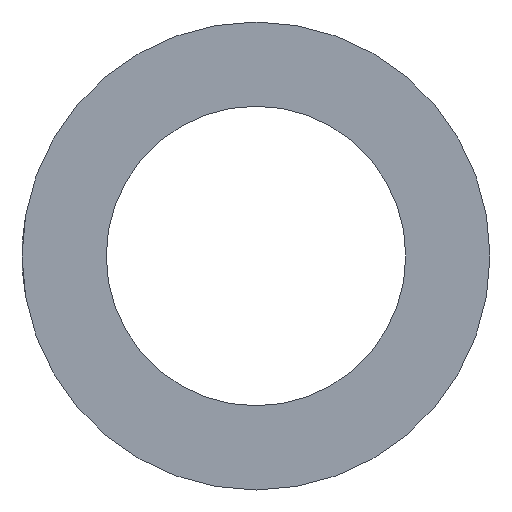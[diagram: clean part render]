
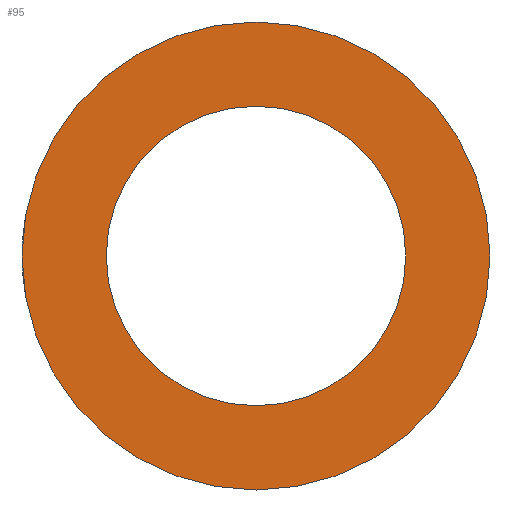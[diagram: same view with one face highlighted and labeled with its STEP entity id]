
A CAD part, left-side view. The second image highlights one B-rep face of the part: STEP entity #95.
In plain terms, the highlighted planar face has unit normal (-1, 0, 0).
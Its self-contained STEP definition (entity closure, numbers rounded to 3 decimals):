
#3 = VERTEX_POINT ( 'NONE', #144 ) ;
#7 = EDGE_CURVE ( 'NONE', #3, #25, #163, .T. ) ;
#14 = EDGE_CURVE ( 'NONE', #560, #28, #235, .T. ) ;
#17 = ORIENTED_EDGE ( 'NONE', *, *, #167, .T. ) ;
#25 = VERTEX_POINT ( 'NONE', #365 ) ;
#28 = VERTEX_POINT ( 'NONE', #395 ) ;
#35 = ORIENTED_EDGE ( 'NONE', *, *, #14, .F. ) ;
#42 = ORIENTED_EDGE ( 'NONE', *, *, #7, .T. ) ;
#73 = EDGE_LOOP ( 'NONE', ( #35, #543 ) ) ;
#92 = EDGE_LOOP ( 'NONE', ( #42, #17 ) ) ;
#95 = ADVANCED_FACE ( 'NONE', ( #194, #195 ), #196, .F. ) ;
#144 = CARTESIAN_POINT ( 'NONE',  ( 0., 0., 62.5 ) ) ;
#163 = CIRCLE ( 'NONE', #164, 62.5 ) ;
#164 = AXIS2_PLACEMENT_3D ( 'NONE', #165, #166, #169 ) ;
#165 = CARTESIAN_POINT ( 'NONE',  ( 0., 0., 0. ) ) ;
#166 = DIRECTION ( 'NONE',  ( -1., 0., 0. ) ) ;
#167 = EDGE_CURVE ( 'NONE', #25, #3, #448, .T. ) ;
#169 = DIRECTION ( 'NONE',  ( 0., 0., 1. ) ) ;
#194 = FACE_BOUND ( 'NONE', #73, .T. ) ;
#195 = FACE_OUTER_BOUND ( 'NONE', #92, .T. ) ;
#196 = PLANE ( 'NONE',  #197 ) ;
#197 = AXIS2_PLACEMENT_3D ( 'NONE', #198, #199, #200 ) ;
#198 = CARTESIAN_POINT ( 'NONE',  ( 0., 0., -62.5 ) ) ;
#199 = DIRECTION ( 'NONE',  ( 1., 0., 0. ) ) ;
#200 = DIRECTION ( 'NONE',  ( 0., 0., -1. ) ) ;
#235 = CIRCLE ( 'NONE', #236, 40. ) ;
#236 = AXIS2_PLACEMENT_3D ( 'NONE', #237, #238, #239 ) ;
#237 = CARTESIAN_POINT ( 'NONE',  ( 0., 0., 0. ) ) ;
#238 = DIRECTION ( 'NONE',  ( -1., 0., 0. ) ) ;
#239 = DIRECTION ( 'NONE',  ( 0., 0., 1. ) ) ;
#286 = CARTESIAN_POINT ( 'NONE',  ( 0., 0., 40. ) ) ;
#365 = CARTESIAN_POINT ( 'NONE',  ( 0., 0., -62.5 ) ) ;
#395 = CARTESIAN_POINT ( 'NONE',  ( 0., 0., -40. ) ) ;
#397 = CIRCLE ( 'NONE', #398, 40. ) ;
#398 = AXIS2_PLACEMENT_3D ( 'NONE', #399, #400, #401 ) ;
#399 = CARTESIAN_POINT ( 'NONE',  ( 0., 0., 0. ) ) ;
#400 = DIRECTION ( 'NONE',  ( -1., 0., 0. ) ) ;
#401 = DIRECTION ( 'NONE',  ( 0., 0., 1. ) ) ;
#448 = CIRCLE ( 'NONE', #449, 62.5 ) ;
#449 = AXIS2_PLACEMENT_3D ( 'NONE', #450, #452, #453 ) ;
#450 = CARTESIAN_POINT ( 'NONE',  ( 0., 0., 0. ) ) ;
#452 = DIRECTION ( 'NONE',  ( -1., 0., 0. ) ) ;
#453 = DIRECTION ( 'NONE',  ( 0., 0., 1. ) ) ;
#543 = ORIENTED_EDGE ( 'NONE', *, *, #703, .F. ) ;
#560 = VERTEX_POINT ( 'NONE', #286 ) ;
#703 = EDGE_CURVE ( 'NONE', #28, #560, #397, .T. ) ;
